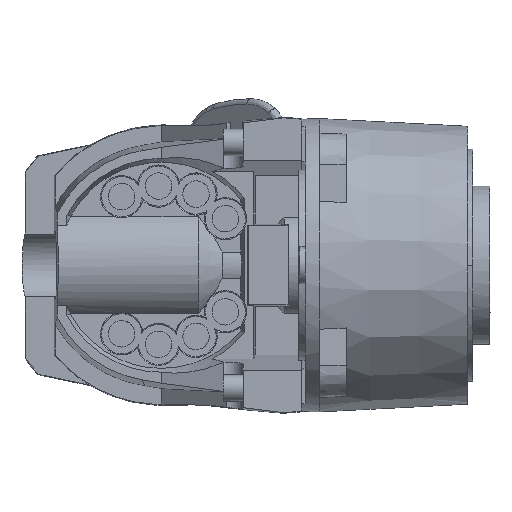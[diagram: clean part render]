
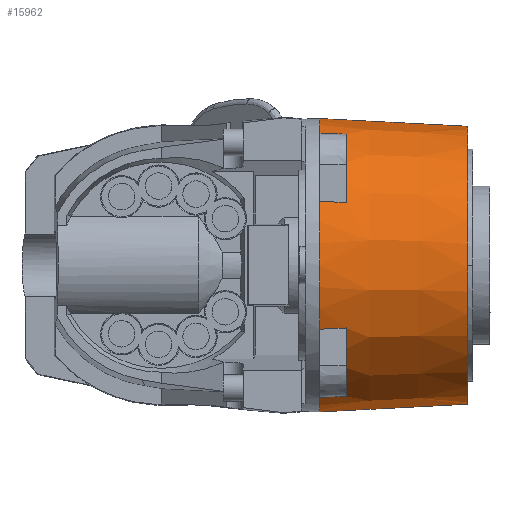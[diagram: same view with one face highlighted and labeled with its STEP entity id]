
A CAD part, front view. The second image highlights one B-rep face of the part: STEP entity #15962.
In plain terms, the highlighted conical face has half-angle 3 degrees and reference radius 55.564 mm.
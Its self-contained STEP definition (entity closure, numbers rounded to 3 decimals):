
#404 = B_SPLINE_CURVE_WITH_KNOTS ( 'NONE', 3,
 ( #4073, #4033, #3952, #3923 ),
 .UNSPECIFIED., .F., .F.,
 ( 4, 4 ),
 ( 0., 0.01 ),
 .UNSPECIFIED. ) ;
#667 = ORIENTED_EDGE ( 'NONE', *, *, #6073, .T. ) ;
#911 = DIRECTION ( 'NONE',  ( 0., 0., 1. ) ) ;
#987 = DIRECTION ( 'NONE',  ( -1., 0., 0. ) ) ;
#1017 = CARTESIAN_POINT ( 'NONE',  ( 944., 0., 1296.5 ) ) ;
#1238 = CARTESIAN_POINT ( 'NONE',  ( 942., -2., 1349.196 ) ) ;
#1296 = CARTESIAN_POINT ( 'NONE',  ( 944., -2., 1349.091 ) ) ;
#1325 = CARTESIAN_POINT ( 'NONE',  ( 943.333, -2., 1349.126 ) ) ;
#1361 = CARTESIAN_POINT ( 'NONE',  ( 942.667, -2., 1349.161 ) ) ;
#1443 = DIRECTION ( 'NONE',  ( 0., 0., 1. ) ) ;
#1463 = DIRECTION ( 'NONE',  ( -1., 0., 0. ) ) ;
#1493 = CARTESIAN_POINT ( 'NONE',  ( 942., 0., 1296.5 ) ) ;
#1833 = DIRECTION ( 'NONE',  ( 0., 0., -1. ) ) ;
#1879 = DIRECTION ( 'NONE',  ( 1., 0., 0. ) ) ;
#1911 = CARTESIAN_POINT ( 'NONE',  ( 888., 0., 1296.5 ) ) ;
#1915 = DIRECTION ( 'NONE',  ( 0., 0., 1. ) ) ;
#1959 = CARTESIAN_POINT ( 'NONE',  ( 888., 0., 1352.064 ) ) ;
#2142 = DIRECTION ( 'NONE',  ( -0.999, 0., 0.052 ) ) ;
#2750 = CARTESIAN_POINT ( 'NONE',  ( 898., -23.752, 1346.151 ) ) ;
#2793 = CARTESIAN_POINT ( 'NONE',  ( 894.667, -23.914, 1346.267 ) ) ;
#2822 = CARTESIAN_POINT ( 'NONE',  ( 891.333, -24.074, 1346.384 ) ) ;
#2866 = B_SPLINE_CURVE_WITH_KNOTS ( 'NONE', 3,
 ( #3500, #4670, #3409, #3391 ),
 .UNSPECIFIED., .F., .F.,
 ( 4, 4 ),
 ( 0., 0.01 ),
 .UNSPECIFIED. ) ;
#2946 = CARTESIAN_POINT ( 'NONE',  ( 888., -24.235, 1346.5 ) ) ;
#3212 = DIRECTION ( 'NONE',  ( 0., 0., 1. ) ) ;
#3214 = VECTOR ( 'NONE', #5860, 1000. ) ;
#3248 = DIRECTION ( 'NONE',  ( 1., 0., 0. ) ) ;
#3266 = CARTESIAN_POINT ( 'NONE',  ( 898., 0., 1296.5 ) ) ;
#3291 = LINE ( 'NONE', #5833, #3214 ) ;
#3391 = CARTESIAN_POINT ( 'NONE',  ( 888., -50., 1320.735 ) ) ;
#3409 = CARTESIAN_POINT ( 'NONE',  ( 891.333, -49.884, 1320.574 ) ) ;
#3500 = CARTESIAN_POINT ( 'NONE',  ( 898., -49.651, 1320.252 ) ) ;
#3662 = DIRECTION ( 'NONE',  ( 0., 0., -1. ) ) ;
#3707 = DIRECTION ( 'NONE',  ( 1., 0., 0. ) ) ;
#3738 = CARTESIAN_POINT ( 'NONE',  ( 888., 0., 1296.5 ) ) ;
#3865 = VECTOR ( 'NONE', #2142, 1000. ) ;
#3885 = LINE ( 'NONE', #1959, #3865 ) ;
#3905 = CIRCLE ( 'NONE', #20625, 52.734 ) ;
#3923 = CARTESIAN_POINT ( 'NONE',  ( 898., -49.651, 1272.748 ) ) ;
#3952 = CARTESIAN_POINT ( 'NONE',  ( 894.667, -49.767, 1272.586 ) ) ;
#4008 = CIRCLE ( 'NONE', #20801, 55.564 ) ;
#4033 = CARTESIAN_POINT ( 'NONE',  ( 891.333, -49.884, 1272.426 ) ) ;
#4073 = CARTESIAN_POINT ( 'NONE',  ( 888., -50., 1272.265 ) ) ;
#4102 = CIRCLE ( 'NONE', #20563, 52.629 ) ;
#4188 = CIRCLE ( 'NONE', #21159, 55.564 ) ;
#4206 = CIRCLE ( 'NONE', #20938, 55.04 ) ;
#4224 = CIRCLE ( 'NONE', #21233, 55.04 ) ;
#4368 = CIRCLE ( 'NONE', #21306, 55.564 ) ;
#4513 = B_SPLINE_CURVE_WITH_KNOTS ( 'NONE', 3,
 ( #2946, #2822, #2793, #2750 ),
 .UNSPECIFIED., .F., .F.,
 ( 4, 4 ),
 ( 0., 0.01 ),
 .UNSPECIFIED. ) ;
#4521 = DIRECTION ( 'NONE',  ( 0., 0., 1. ) ) ;
#4547 = DIRECTION ( 'NONE',  ( 1., 0., 0. ) ) ;
#4620 = CARTESIAN_POINT ( 'NONE',  ( 898., 0., 1296.5 ) ) ;
#4670 = CARTESIAN_POINT ( 'NONE',  ( 894.667, -49.767, 1320.414 ) ) ;
#4741 = ORIENTED_EDGE ( 'NONE', *, *, #6631, .F. ) ;
#4810 = CARTESIAN_POINT ( 'NONE',  ( 888., -24.235, 1246.5 ) ) ;
#4830 = CARTESIAN_POINT ( 'NONE',  ( 891.333, -24.074, 1246.616 ) ) ;
#4910 = CARTESIAN_POINT ( 'NONE',  ( 898., -23.752, 1246.849 ) ) ;
#4981 = CARTESIAN_POINT ( 'NONE',  ( 888., 0., 1240.936 ) ) ;
#5530 = ORIENTED_EDGE ( 'NONE', *, *, #6208, .T. ) ;
#5584 = DIRECTION ( 'NONE',  ( 0., 0., -1. ) ) ;
#5627 = DIRECTION ( 'NONE',  ( 1., 0., 0. ) ) ;
#5661 = CARTESIAN_POINT ( 'NONE',  ( 888., 0., 1296.5 ) ) ;
#5789 = CARTESIAN_POINT ( 'NONE',  ( 944., -2., 1349.091 ) ) ;
#5808 = CARTESIAN_POINT ( 'NONE',  ( 894.667, -23.914, 1246.733 ) ) ;
#5833 = CARTESIAN_POINT ( 'NONE',  ( 888., 0., 1240.936 ) ) ;
#5860 = DIRECTION ( 'NONE',  ( -0.999, 0., -0.052 ) ) ;
#6073 = EDGE_CURVE ( 'NONE', #14414, #12960, #4368, .T. ) ;
#6101 = EDGE_CURVE ( 'NONE', #13998, #14414, #21666, .T. ) ;
#6135 = EDGE_CURVE ( 'NONE', #13971, #13998, #4224, .T. ) ;
#6166 = EDGE_CURVE ( 'NONE', #13888, #13971, #404, .T. ) ;
#6173 = EDGE_CURVE ( 'NONE', #13808, #13888, #4188, .T. ) ;
#6198 = CARTESIAN_POINT ( 'NONE',  ( 888., 0., 1352.064 ) ) ;
#6202 = EDGE_CURVE ( 'NONE', #13631, #13808, #2866, .T. ) ;
#6208 = EDGE_CURVE ( 'NONE', #13611, #13631, #4206, .T. ) ;
#6224 = B_SPLINE_CURVE_WITH_KNOTS ( 'NONE', 3,
 ( #1296, #1325, #1361, #1238 ),
 .UNSPECIFIED., .F., .F.,
 ( 4, 4 ),
 ( 0., 1. ),
 .UNSPECIFIED. ) ;
#6269 = EDGE_CURVE ( 'NONE', #13474, #13611, #4513, .T. ) ;
#6305 = EDGE_CURVE ( 'NONE', #13383, #13474, #4008, .T. ) ;
#6337 = EDGE_CURVE ( 'NONE', #13360, #13383, #3885, .T. ) ;
#6342 = EDGE_CURVE ( 'NONE', #13335, #13360, #3905, .T. ) ;
#6369 = EDGE_CURVE ( 'NONE', #11906, #13335, #6224, .T. ) ;
#6399 = EDGE_CURVE ( 'NONE', #12876, #11906, #4102, .T. ) ;
#6631 = EDGE_CURVE ( 'NONE', #12876, #12960, #3291, .T. ) ;
#7501 = CARTESIAN_POINT ( 'NONE',  ( 888., -24.235, 1246.5 ) ) ;
#7857 = CARTESIAN_POINT ( 'NONE',  ( 942., 0., 1349.234 ) ) ;
#8343 = AXIS2_PLACEMENT_3D ( 'NONE', #16183, #18007, #1915 ) ;
#9068 = CARTESIAN_POINT ( 'NONE',  ( 942., -2., 1349.196 ) ) ;
#9161 = CONICAL_SURFACE ( 'NONE', #8343, 55.564, 0.052 ) ;
#9291 = FACE_OUTER_BOUND ( 'NONE', #16468, .T. ) ;
#10770 = CARTESIAN_POINT ( 'NONE',  ( 888., -24.235, 1346.5 ) ) ;
#11645 = ORIENTED_EDGE ( 'NONE', *, *, #6369, .T. ) ;
#11906 = VERTEX_POINT ( 'NONE', #5789 ) ;
#12560 = ORIENTED_EDGE ( 'NONE', *, *, #6342, .T. ) ;
#12876 = VERTEX_POINT ( 'NONE', #15045 ) ;
#12908 = ORIENTED_EDGE ( 'NONE', *, *, #6305, .T. ) ;
#12960 = VERTEX_POINT ( 'NONE', #4981 ) ;
#13335 = VERTEX_POINT ( 'NONE', #9068 ) ;
#13360 = VERTEX_POINT ( 'NONE', #7857 ) ;
#13383 = VERTEX_POINT ( 'NONE', #6198 ) ;
#13474 = VERTEX_POINT ( 'NONE', #10770 ) ;
#13611 = VERTEX_POINT ( 'NONE', #20986 ) ;
#13631 = VERTEX_POINT ( 'NONE', #20958 ) ;
#13633 = CARTESIAN_POINT ( 'NONE',  ( 898., -23.752, 1246.849 ) ) ;
#13808 = VERTEX_POINT ( 'NONE', #19205 ) ;
#13887 = CARTESIAN_POINT ( 'NONE',  ( 898., -49.651, 1272.748 ) ) ;
#13888 = VERTEX_POINT ( 'NONE', #15658 ) ;
#13971 = VERTEX_POINT ( 'NONE', #13887 ) ;
#13998 = VERTEX_POINT ( 'NONE', #13633 ) ;
#14414 = VERTEX_POINT ( 'NONE', #7501 ) ;
#14710 = ORIENTED_EDGE ( 'NONE', *, *, #6202, .T. ) ;
#15045 = CARTESIAN_POINT ( 'NONE',  ( 944., 0., 1243.871 ) ) ;
#15658 = CARTESIAN_POINT ( 'NONE',  ( 888., -50., 1272.265 ) ) ;
#15962 = ADVANCED_FACE ( 'NONE', ( #9291 ), #9161, .T. ) ;
#16048 = ORIENTED_EDGE ( 'NONE', *, *, #6337, .T. ) ;
#16183 = CARTESIAN_POINT ( 'NONE',  ( 888., 0., 1296.5 ) ) ;
#16468 = EDGE_LOOP ( 'NONE', ( #4741, #20328, #11645, #12560, #16048, #12908, #21225, #5530, #14710, #20871, #20531, #21869, #21609, #667 ) ) ;
#18007 = DIRECTION ( 'NONE',  ( -1., 0., 0. ) ) ;
#19205 = CARTESIAN_POINT ( 'NONE',  ( 888., -50., 1320.735 ) ) ;
#20328 = ORIENTED_EDGE ( 'NONE', *, *, #6399, .T. ) ;
#20531 = ORIENTED_EDGE ( 'NONE', *, *, #6166, .T. ) ;
#20563 = AXIS2_PLACEMENT_3D ( 'NONE', #1017, #987, #911 ) ;
#20625 = AXIS2_PLACEMENT_3D ( 'NONE', #1493, #1463, #1443 ) ;
#20801 = AXIS2_PLACEMENT_3D ( 'NONE', #1911, #1879, #1833 ) ;
#20871 = ORIENTED_EDGE ( 'NONE', *, *, #6173, .T. ) ;
#20938 = AXIS2_PLACEMENT_3D ( 'NONE', #3266, #3248, #3212 ) ;
#20958 = CARTESIAN_POINT ( 'NONE',  ( 898., -49.651, 1320.252 ) ) ;
#20986 = CARTESIAN_POINT ( 'NONE',  ( 898., -23.752, 1346.151 ) ) ;
#21159 = AXIS2_PLACEMENT_3D ( 'NONE', #3738, #3707, #3662 ) ;
#21225 = ORIENTED_EDGE ( 'NONE', *, *, #6269, .T. ) ;
#21233 = AXIS2_PLACEMENT_3D ( 'NONE', #4620, #4547, #4521 ) ;
#21306 = AXIS2_PLACEMENT_3D ( 'NONE', #5661, #5627, #5584 ) ;
#21609 = ORIENTED_EDGE ( 'NONE', *, *, #6101, .T. ) ;
#21666 = B_SPLINE_CURVE_WITH_KNOTS ( 'NONE', 3,
 ( #4910, #5808, #4830, #4810 ),
 .UNSPECIFIED., .F., .F.,
 ( 4, 4 ),
 ( 0., 0.01 ),
 .UNSPECIFIED. ) ;
#21869 = ORIENTED_EDGE ( 'NONE', *, *, #6135, .T. ) ;
